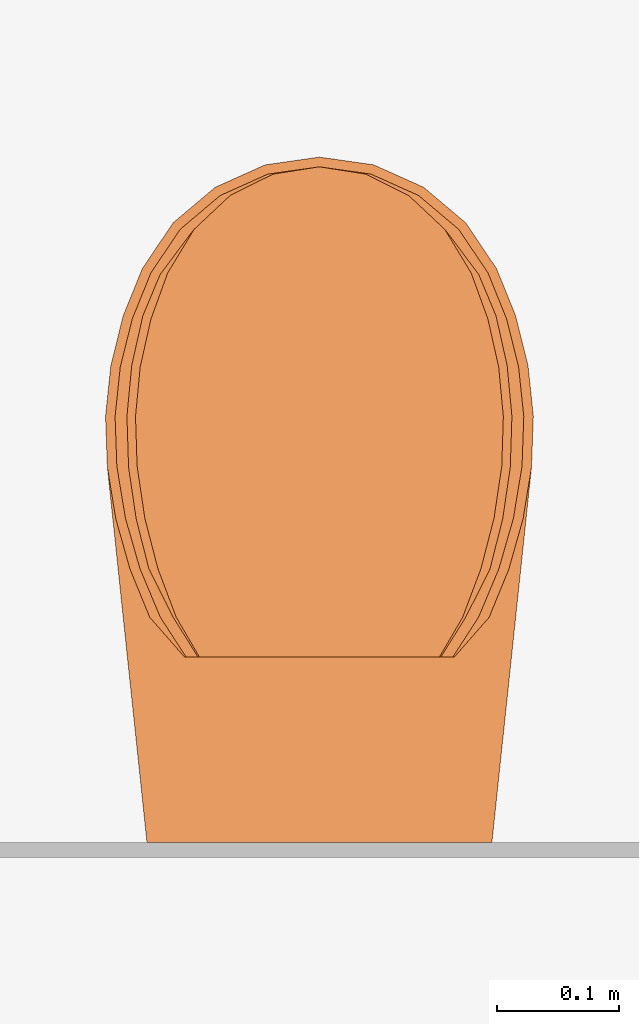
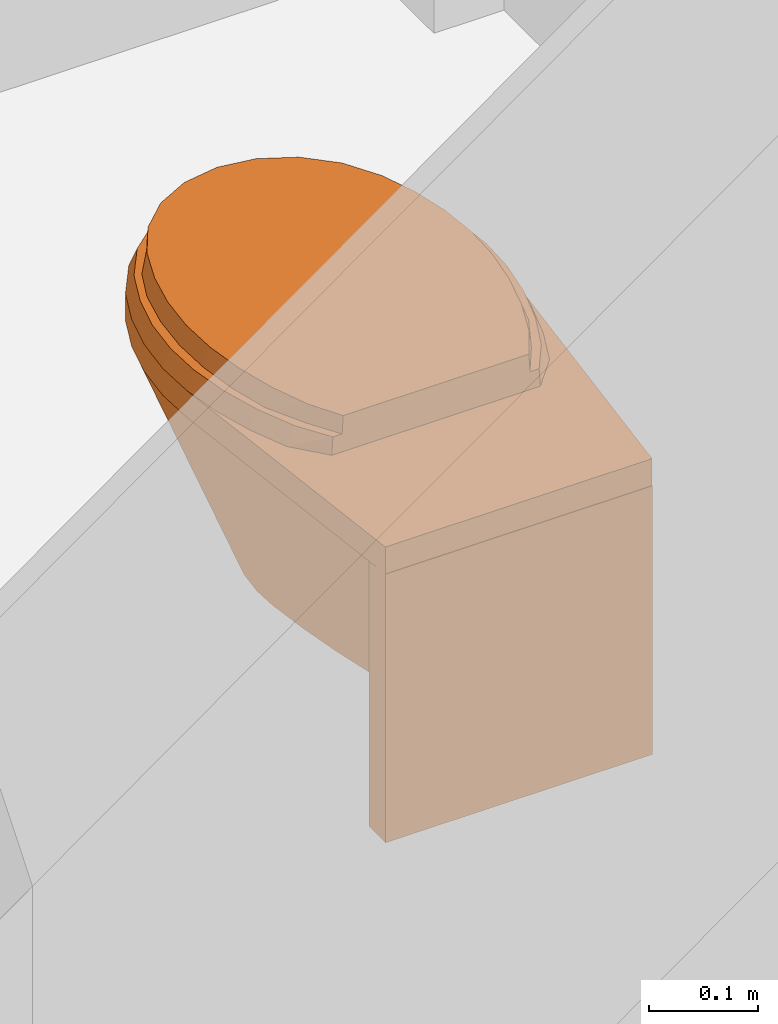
# One storey, part 109 of 117: 1 proxy.
"""IFC2X3 building model written with IfcOpenShell, lengths in millimetres."""

from ifc_helpers import new_model, entity, si_unit, converted_unit, derived_unit, money_unit, direction, frame, origin_with_axes, place, context, subcontext, project, spatial, open_shell, faceted_brep, surface_model, source, transform, mapped, type_object, type_shapes, element, save


model = new_model("IFC2X3")

# Units and contexts
model_context = context("Model", 3, precision=0.01, world=origin_with_axes(), true_north=direction((0.0, 1.0)))
body_context = subcontext(model_context, "Body", "Model", "MODEL_VIEW")
ifc_project = project(units=[si_unit("LENGTHUNIT", "METRE", prefix="MILLI"), si_unit("AREAUNIT", "SQUARE_METRE"), si_unit("VOLUMEUNIT", "CUBIC_METRE"), converted_unit("PLANEANGLEUNIT", "DEGREE", entity("IfcPlaneAngleMeasure", 0.0174532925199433), si_unit("PLANEANGLEUNIT", "RADIAN"), dimensions=[0, 0, 0, 0, 0, 0, 0]), money_unit("EUR"), converted_unit("TIMEUNIT", "Year", entity("IfcTimeMeasure", 31557600.0), si_unit("TIMEUNIT", "SECOND"), dimensions=[0, 0, 1, 0, 0, 0, 0]), si_unit("MASSUNIT", "GRAM", prefix="KILO"), si_unit("THERMODYNAMICTEMPERATUREUNIT", "DEGREE_CELSIUS"), si_unit("LUMINOUSINTENSITYUNIT", "LUMEN"), si_unit("ENERGYUNIT", "JOULE", prefix="MEGA"), derived_unit("THERMALCONDUCTANCEUNIT", [(si_unit("POWERUNIT", "WATT"), 1), (si_unit("LENGTHUNIT", "METRE"), -1), (si_unit("THERMODYNAMICTEMPERATUREUNIT", "KELVIN"), -1)]), derived_unit("SPECIFICHEATCAPACITYUNIT", [(si_unit("ENERGYUNIT", "JOULE"), 1), (si_unit("MASSUNIT", "GRAM", prefix="KILO"), -1), (si_unit("THERMODYNAMICTEMPERATUREUNIT", "KELVIN"), -1)]), derived_unit("MASSDENSITYUNIT", [(si_unit("MASSUNIT", "GRAM", prefix="KILO"), 1), (si_unit("VOLUMEUNIT", "CUBIC_METRE"), -1)])], contexts=[model_context])

# Site, building, storey
site_placement = place(None, origin_with_axes())
site = spatial("IfcSite", under=ifc_project, at=site_placement, Name="Site", CompositionType="ELEMENT")
building_placement = place(site_placement, origin_with_axes())
building = spatial("IfcBuilding", under=site, at=building_placement, Name="Naam gebouw", CompositionType="ELEMENT")
storey_placement = place(building_placement, frame((0.0, 0.0, 4150.0), z_axis=(0.0, 0.0, 1.0), x_axis=(1.0, 0.0, 0.0)))
storey = spatial("IfcBuildingStorey", under=building, at=storey_placement, Name="1e verdieping N", CompositionType="ELEMENT", Elevation=4150.0)

# Proxy
building_element_proxy_type = type_object("IfcBuildingElementProxyType", Name="Toilet 27", PredefinedType="NOTDEFINED")
shared_shape = source(origin_with_axes(), body_context, "Body", "SurfaceModel", [
    faceted_brep([(141.0283315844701, -29.31865370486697, 69.99999999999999), (-141.0283315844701, -29.31865370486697, 69.99999999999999), (-141.0283315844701, 0.4949050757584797, 69.99999999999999), (141.0283315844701, 0.4949050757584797, 69.99999999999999), (141.0283315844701, -29.31865370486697, 370.0), (-141.0283315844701, -29.31865370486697, 370.0), (-141.0283315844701, 0.4949050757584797, 370.0), (141.0283315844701, 0.4949050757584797, 370.0)], [[[0, 1, 2, 3]], [[1, 0, 4, 5]], [[2, 1, 5, 6]], [[3, 2, 6, 7]], [[0, 3, 7, 4]], [[5, 4, 7, 6]]]),
    faceted_brep([(0.0, -70.89167385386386, 370.0), (29.22322490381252, -74.34010881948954, 370.0), (48.96817068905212, -81.5929972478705, 370.0), (48.96817068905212, -29.31865370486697, 370.0), (-48.96817068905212, -29.31865370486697, 370.0), (-48.96817068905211, -81.5929972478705, 370.0), (-29.22322490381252, -74.34010881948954, 370.0), (13.70129415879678, -104.9506834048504, 120.0), (48.96817068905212, -91.42153264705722, 305.9289314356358), (25.9903462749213, -111.5027098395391, 120.0), (48.96817068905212, -132.9294031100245, 150.8349994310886), (48.96817068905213, -162.8654130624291, 120.0), (48.96817068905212, -29.31865370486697, 120.0), (48.96817068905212, -98.32654517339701, 277.0091093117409), (48.96817068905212, -115.6023982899, 192.7960154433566), (48.96817068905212, -128.1614437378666, 166.4745945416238), (-48.96817068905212, -29.31865370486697, 120.0), (-48.96817068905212, -88.2509938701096, 324.1614695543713), (-48.96817068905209, -162.865413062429, 120.0), (-48.96817068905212, -136.958898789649, 141.3134093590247), (-48.96817068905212, -132.9294031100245, 150.8349994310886), (-48.96817068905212, -121.830119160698, 170.4964192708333), (-48.96817068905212, -115.6023982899, 192.7960154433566), (-48.96817068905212, -107.0876370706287, 223.4625696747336), (-48.96817068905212, -91.42153264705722, 305.9289314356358), (-13.70129415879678, -104.9506834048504, 120.0), (0.0, -102.6888280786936, 120.0), (35.59888072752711, -121.6691333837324, 120.0), (41.53676110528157, -134.4015105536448, 120.0), (-41.53676110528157, -134.4015105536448, 120.0), (-25.9903462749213, -111.5027098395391, 120.0), (-35.59888072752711, -121.6691333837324, 120.0)], [[[0, 1, 2, 3, 4, 5, 6]], [[1, 0, 7]], [[8, 2, 1, 9]], [[10, 11, 12, 3, 2, 8, 13, 14, 15]], [[3, 12, 16, 4]], [[17, 5, 4, 16, 18, 19, 20, 21, 22, 23, 24]], [[6, 5, 17, 25]], [[0, 6, 26]], [[26, 7, 0]], [[7, 9, 1]], [[13, 8, 9, 27]], [[11, 10, 28]], [[29, 18, 16, 12, 11, 28, 27, 9, 7, 26, 25, 30, 31]], [[14, 13, 27]], [[15, 14, 27, 28]], [[10, 15, 28]], [[18, 29, 19]], [[20, 19, 29]], [[29, 31, 21, 20]], [[22, 21, 31]], [[31, 30, 23, 22]], [[24, 23, 30]], [[30, 25, 17, 24]], [[25, 26, 6]]]),
    surface_model("IfcShellBasedSurfaceModel", [(17.69122070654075, -459.020482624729, 120.0), (34.02798181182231, -451.6883347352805, 120.0), (85.18209164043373, -535.3680377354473, 370.0), (0.0, -461.5278029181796, 120.0), (-17.69122070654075, -459.020482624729, 120.0), (-34.02798181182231, -451.6883347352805, 120.0), (-47.75865687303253, -440.0938417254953, 120.0), (-57.83238894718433, -425.1254476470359, 120.0), (-68.23029031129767, -399.4182096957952, 120.0), (-74.94382651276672, -372.4786779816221, 120.0), (-77.83882476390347, -344.8464779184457, 120.0), (-76.85750262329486, -317.0761416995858, 120.0), (-70.97348723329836, -270.8651255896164, 120.0), (-63.11507520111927, -224.9582077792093, 120.0), (-53.29597761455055, -179.4418475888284, 120.0), (-41.53676110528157, -134.4015105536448, 120.0), (-35.59888072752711, -121.6691333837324, 120.0), (-25.9903462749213, -111.5027098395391, 120.0), (-13.70129415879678, -104.9506834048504, 120.0), (0.0, -102.6888280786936, 120.0), (13.70129415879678, -104.9506834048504, 120.0), (25.9903462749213, -111.5027098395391, 120.0), (35.59888072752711, -121.6691333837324, 120.0), (41.53676110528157, -134.4015105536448, 120.0), (53.29597761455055, -179.4418475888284, 120.0), (63.11507520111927, -224.9582077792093, 120.0), (70.97348723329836, -270.8651255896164, 120.0), (76.85750262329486, -317.0761416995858, 120.0), (77.83882476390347, -344.845484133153, 120.0), (74.94382651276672, -372.4786779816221, 120.0), (68.23029031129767, -399.4182096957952, 120.0), (57.83238894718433, -425.1254476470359, 120.0), (47.75865687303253, -440.0938417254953, 120.0), (119.554809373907, -506.3435444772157, 370.0), (44.28681357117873, -553.722258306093, 370.0), (0.0, -560.0, 370.0), (-44.28681357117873, -553.722258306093, 370.0), (-85.18209164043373, -535.3680377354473, 370.0), (-119.554809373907, -506.3435444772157, 370.0), (-144.7734172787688, -468.8718762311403, 370.0), (-160.3893669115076, -430.2603362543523, 370.0), (-170.4738719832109, -389.7973742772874, 370.0), (-174.8222455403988, -348.2949128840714, 370.0), (-173.3473242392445, -306.5847503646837, 370.0), (-164.8111927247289, -257.295981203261, 370.0), (-149.8396642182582, -209.614162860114, 370.0), (-128.7050017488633, -164.3989196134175, 370.0), (-101.7881776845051, -122.4661491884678, 370.0), (-81.51241692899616, -100.8344247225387, 370.0), (-56.88632388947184, -84.50156343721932, 370.0), (-29.22322490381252, -74.34010881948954, 370.0), (0.0, -70.89167385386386, 370.0), (29.22322490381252, -74.34010881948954, 370.0), (56.88632388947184, -84.50156343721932, 370.0), (81.51241692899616, -100.8344247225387, 370.0), (101.7881776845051, -122.4661491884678, 370.0), (128.7050017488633, -164.3989196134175, 370.0), (149.8396642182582, -209.614162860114, 370.0), (164.8111927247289, -257.2969749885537, 370.0), (173.3473242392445, -306.5847503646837, 370.0), (174.8222455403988, -348.2949128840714, 370.0), (170.4738719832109, -389.7973742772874, 370.0), (160.3903462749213, -430.2603362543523, 370.0), (144.7734172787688, -468.8718762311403, 370.0)], [open_shell([[[0, 1, 2]], [[0, 3, 4, 5, 6, 7, 8, 9, 10, 11, 12, 13, 14, 15, 16, 17, 18, 19, 20, 21, 22, 23, 24, 25, 26, 27, 28, 29, 30, 31, 32, 1]], [[1, 33, 2]], [[0, 2, 34]], [[3, 0, 34]], [[4, 3, 35]], [[5, 4, 36]], [[6, 5, 37]], [[7, 6, 38]], [[8, 7, 39]], [[9, 8, 40]], [[10, 9, 41]], [[11, 10, 42]], [[12, 11, 43]], [[13, 12, 44]], [[14, 13, 45]], [[15, 14, 46]], [[16, 15, 47]], [[17, 16, 48]], [[18, 17, 49]], [[19, 18, 50]], [[20, 19, 51]], [[21, 20, 52]], [[22, 21, 53]], [[23, 22, 54]], [[24, 23, 55]], [[25, 24, 56]], [[26, 25, 57]], [[27, 26, 58]], [[28, 27, 59]], [[29, 28, 60]], [[30, 29, 61]], [[31, 30, 62]], [[32, 31, 63]], [[1, 32, 33]], [[3, 34, 35]], [[4, 35, 36]], [[5, 36, 37]], [[6, 37, 38]], [[7, 38, 39]], [[8, 39, 40]], [[9, 40, 41]], [[10, 41, 42]], [[11, 42, 43]], [[12, 43, 44]], [[13, 44, 45]], [[14, 45, 46]], [[15, 46, 47]], [[16, 47, 48]], [[17, 48, 49]], [[18, 49, 50]], [[19, 50, 51]], [[20, 51, 52]], [[21, 52, 53]], [[22, 53, 54]], [[23, 54, 55]], [[24, 55, 56]], [[25, 56, 57]], [[26, 57, 58]], [[27, 58, 59]], [[28, 59, 60]], [[29, 60, 61]], [[30, 61, 62]], [[31, 62, 63]], [[32, 63, 33]]])]),
    faceted_brep([(-173.3473242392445, -306.5847503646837, 370.0), (-174.8222455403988, -348.2949128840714, 370.0), (-174.8222455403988, -348.2949128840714, 400.0), (-173.3473242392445, -306.5847503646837, 400.0), (-140.9734872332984, 0.0, 370.0), (140.975445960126, 0.0, 370.0), (173.3473242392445, -306.5847503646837, 370.0), (174.8222455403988, -348.2949128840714, 370.0), (170.4738719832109, -389.7973742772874, 370.0), (160.3903462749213, -430.2603362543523, 370.0), (144.7734172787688, -468.8718762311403, 370.0), (119.554809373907, -506.3435444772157, 370.0), (85.18209164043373, -535.3680377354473, 370.0), (44.28681357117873, -553.722258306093, 370.0), (0.0, -560.0, 370.0), (-44.28681357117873, -553.722258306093, 370.0), (-85.18209164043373, -535.3680377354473, 370.0), (-119.554809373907, -506.3435444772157, 370.0), (-144.7734172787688, -468.8718762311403, 370.0), (-160.3893669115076, -430.2603362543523, 370.0), (-170.4738719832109, -389.7973742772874, 370.0), (144.5021336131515, -309.7211367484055, 370.0), (129.3885974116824, -258.2838037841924, 370.0), (97.13522210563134, -215.7418429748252, 370.0), (52.01301154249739, -187.731010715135, 370.0), (0.0, -177.9630950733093, 370.0), (-52.01301154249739, -187.731010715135, 370.0), (-97.13522210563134, -215.7418429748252, 370.0), (-129.3885974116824, -258.2838037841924, 370.0), (-144.5021336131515, -309.7211367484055, 370.0), (-145.8291710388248, -347.2633637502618, 370.0), (-141.914655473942, -384.6197529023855, 370.0), (-132.838894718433, -421.0399963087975, 370.0), (-118.7820916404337, -455.7936617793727, 370.0), (-98.09206016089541, -486.5383973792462, 370.0), (-69.89031129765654, -510.3524743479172, 370.0), (-36.33634137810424, -525.411302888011, 370.0), (0.0, -530.5620920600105, 370.0), (36.33634137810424, -525.411302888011, 370.0), (69.89031129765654, -510.3524743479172, 370.0), (98.09206016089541, -486.5383973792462, 370.0), (118.7820916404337, -455.7936617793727, 370.0), (132.838894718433, -421.0399963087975, 370.0), (141.914655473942, -384.6197529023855, 370.0), (145.8291710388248, -347.2633637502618, 370.0), (-170.4738719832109, -389.7973742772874, 400.0), (-160.3893669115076, -430.2603362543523, 400.0), (-144.7734172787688, -468.8718762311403, 400.0), (-119.554809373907, -506.3435444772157, 400.0), (-85.18209164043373, -535.3680377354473, 400.0), (-44.28681357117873, -553.722258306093, 400.0), (0.0, -560.0, 400.0), (44.28681357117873, -553.722258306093, 400.0), (85.18209164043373, -535.3680377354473, 400.0), (119.554809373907, -506.3435444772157, 400.0), (144.7734172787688, -468.8718762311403, 400.0), (160.3903462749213, -430.2603362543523, 400.0), (170.4738719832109, -389.7973742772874, 400.0), (174.8222455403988, -348.2949128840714, 400.0), (173.3473242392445, -306.5847503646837, 400.0), (140.975445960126, 0.0, 400.0), (-140.9734872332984, 0.0, 400.0), (144.5021336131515, -309.7211367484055, 400.0), (145.8291710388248, -347.2633637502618, 400.0), (141.914655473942, -384.6197529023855, 400.0), (132.838894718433, -421.0399963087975, 400.0), (118.7820916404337, -455.7936617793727, 400.0), (98.09206016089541, -486.5383973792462, 400.0), (69.89031129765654, -510.3524743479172, 400.0), (36.33634137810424, -525.411302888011, 400.0), (0.0, -530.5620920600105, 400.0), (-36.33634137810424, -525.411302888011, 400.0), (-69.89031129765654, -510.3524743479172, 400.0), (-98.09206016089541, -486.5383973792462, 400.0), (-118.7820916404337, -455.7936617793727, 400.0), (-132.838894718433, -421.0399963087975, 400.0), (-141.914655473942, -384.6197529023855, 400.0), (-145.8291710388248, -347.2633637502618, 400.0), (-144.5021336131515, -309.7211367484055, 400.0), (-129.3885974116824, -258.2838037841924, 400.0), (-97.13522210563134, -215.7418429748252, 400.0), (-52.01301154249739, -187.731010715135, 400.0), (0.0, -177.9630950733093, 400.0), (52.01301154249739, -187.731010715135, 400.0), (97.13522210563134, -215.7418429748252, 400.0), (129.3885974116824, -258.2838037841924, 400.0)], [[[0, 1, 2, 3]], [[0, 4, 5, 6, 7, 8, 9, 10, 11, 12, 13, 14, 15, 16, 17, 18, 19, 20, 1], [21, 22, 23, 24, 25, 26, 27, 28, 29, 30, 31, 32, 33, 34, 35, 36, 37, 38, 39, 40, 41, 42, 43, 44]], [[1, 20, 45, 2]], [[3, 2, 45, 46, 47, 48, 49, 50, 51, 52, 53, 54, 55, 56, 57, 58, 59, 60, 61], [62, 63, 64, 65, 66, 67, 68, 69, 70, 71, 72, 73, 74, 75, 76, 77, 78, 79, 80, 81, 82, 83, 84, 85]], [[4, 0, 3, 61]], [[5, 4, 61, 60]], [[6, 5, 60, 59]], [[7, 6, 59, 58]], [[8, 7, 58, 57]], [[9, 8, 57, 56]], [[10, 9, 56, 55]], [[11, 10, 55, 54]], [[12, 11, 54, 53]], [[13, 12, 53, 52]], [[14, 13, 52, 51]], [[15, 14, 51, 50]], [[16, 15, 50, 49]], [[17, 16, 49, 48]], [[18, 17, 48, 47]], [[19, 18, 47, 46]], [[20, 19, 46, 45]], [[22, 21, 62, 85]], [[23, 22, 85, 84]], [[24, 23, 84, 83]], [[25, 24, 83, 82]], [[26, 25, 82, 81]], [[27, 26, 81, 80]], [[28, 27, 80, 79]], [[29, 28, 79, 78]], [[30, 29, 78, 77]], [[31, 30, 77, 76]], [[32, 31, 76, 75]], [[33, 32, 75, 74]], [[34, 33, 74, 73]], [[35, 34, 73, 72]], [[36, 35, 72, 71]], [[37, 36, 71, 70]], [[38, 37, 70, 69]], [[39, 38, 69, 68]], [[40, 39, 68, 67]], [[41, 40, 67, 66]], [[42, 41, 66, 65]], [[43, 42, 65, 64]], [[44, 43, 64, 63]], [[21, 44, 63, 62]]]),
    surface_model("IfcShellBasedSurfaceModel", [(16.80665967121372, -465.7329258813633, 220.0), (32.3265827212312, -460.0138505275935, 220.0), (80.92298705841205, -525.2840188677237, 370.0), (0.0, -467.6886357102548, 220.0), (-16.80665967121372, -465.7329258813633, 220.0), (-32.3265827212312, -460.0138505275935, 220.0), (-45.3707240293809, -450.970145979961, 220.0), (-54.94076949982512, -439.2947985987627, 220.0), (-64.81877579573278, -419.2431529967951, 220.0), (-71.1966351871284, -398.23031825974, 220.0), (-73.9468835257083, -376.6772022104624, 220.0), (-73.01462749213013, -355.0163399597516, 220.0), (-67.42481287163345, -318.9717473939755, 220.0), (-59.95932144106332, -283.164351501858, 220.0), (-50.63117873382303, -247.6615905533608, 220.0), (-39.4599230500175, -212.5301276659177, 220.0), (-33.81893669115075, -202.598873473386, 220.0), (-24.69082896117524, -194.6690631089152, 220.0), (-13.01622945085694, -189.558482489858, 220.0), (0.0, -187.7942353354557, 220.0), (13.01622945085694, -189.558482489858, 220.0), (24.69082896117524, -194.6690631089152, 220.0), (33.81893669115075, -202.598873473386, 220.0), (39.4599230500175, -212.5301276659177, 220.0), (50.63117873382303, -247.6615905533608, 220.0), (59.95932144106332, -283.164351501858, 220.0), (67.42481287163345, -318.9717473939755, 220.0), (73.01462749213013, -355.0163399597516, 220.0), (73.9468835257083, -376.6764270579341, 220.0), (71.1966351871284, -398.23031825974, 220.0), (64.81877579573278, -419.2431529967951, 220.0), (54.94076949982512, -439.2947985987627, 220.0), (45.3707240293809, -450.970145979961, 220.0), (113.5770689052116, -502.644914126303, 370.0), (42.0724728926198, -539.6003109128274, 370.0), (0.0, -544.4969494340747, 370.0), (-42.0724728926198, -539.6003109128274, 370.0), (-80.92298705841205, -525.2840188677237, 370.0), (-113.5770689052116, -502.644914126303, 370.0), (-137.5347464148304, -473.4170128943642, 370.0), (-152.3698985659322, -443.3000117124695, 370.0), (-161.9501783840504, -411.7389013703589, 370.0), (-166.0811332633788, -379.3669814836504, 370.0), (-164.6799580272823, -346.833054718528, 370.0), (-156.5706330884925, -308.3878147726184, 370.0), (-142.3476810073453, -271.1959964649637, 370.0), (-122.2697516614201, -235.9281067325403, 370.0), (-96.69876880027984, -203.2205458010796, 370.0), (-77.43679608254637, -186.3478007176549, 370.0), (-54.04200769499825, -173.6081689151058, 370.0), (-27.7620636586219, -165.6822343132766, 370.0), (0.0, -162.9924550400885, 370.0), (27.7620636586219, -165.6822343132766, 370.0), (54.04200769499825, -173.6081689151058, 370.0), (77.43679608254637, -186.3478007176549, 370.0), (96.69876880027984, -203.2205458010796, 370.0), (122.2697516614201, -235.9281067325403, 370.0), (142.3476810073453, -271.1959964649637, 370.0), (156.5706330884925, -308.3885899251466, 370.0), (164.6799580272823, -346.833054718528, 370.0), (166.0811332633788, -379.3669814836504, 370.0), (161.9501783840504, -411.7389013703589, 370.0), (152.3708289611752, -443.3000117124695, 370.0), (137.5347464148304, -473.4170128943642, 370.0)], [open_shell([[[0, 1, 2]], [[0, 3, 4, 5, 6, 7, 8, 9, 10, 11, 12, 13, 14, 15, 16, 17, 18, 19, 20, 21, 22, 23, 24, 25, 26, 27, 28, 29, 30, 31, 32, 1]], [[1, 33, 2]], [[0, 2, 34]], [[3, 0, 34]], [[4, 3, 35]], [[5, 4, 36]], [[6, 5, 37]], [[7, 6, 38]], [[8, 7, 39]], [[9, 8, 40]], [[10, 9, 41]], [[11, 10, 42]], [[12, 11, 43]], [[13, 12, 44]], [[14, 13, 45]], [[15, 14, 46]], [[16, 15, 47]], [[17, 16, 48]], [[18, 17, 49]], [[19, 18, 50]], [[20, 19, 51]], [[21, 20, 52]], [[22, 21, 53]], [[23, 22, 54]], [[24, 23, 55]], [[25, 24, 56]], [[26, 25, 57]], [[27, 26, 58]], [[28, 27, 59]], [[29, 28, 60]], [[30, 29, 61]], [[31, 30, 62]], [[32, 31, 63]], [[1, 32, 33]], [[3, 34, 35]], [[4, 35, 36]], [[5, 36, 37]], [[6, 37, 38]], [[7, 38, 39]], [[8, 39, 40]], [[9, 40, 41]], [[10, 41, 42]], [[11, 42, 43]], [[12, 43, 44]], [[13, 44, 45]], [[14, 45, 46]], [[15, 46, 47]], [[16, 47, 48]], [[17, 48, 49]], [[18, 49, 50]], [[19, 50, 51]], [[20, 51, 52]], [[21, 52, 53]], [[22, 53, 54]], [[23, 54, 55]], [[24, 55, 56]], [[25, 56, 57]], [[26, 57, 58]], [[27, 58, 59]], [[28, 59, 60]], [[29, 60, 61]], [[30, 61, 62]], [[31, 62, 63]], [[32, 63, 33]]])]),
    faceted_brep([(0.0, -560.0, 400.0), (-44.28681357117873, -553.722258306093, 400.0), (-85.18209164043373, -535.3680377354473, 400.0), (-119.554809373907, -506.3435444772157, 400.0), (-144.7734172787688, -468.8718762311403, 400.0), (-160.3893669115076, -430.2603362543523, 400.0), (-170.4738719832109, -389.7973742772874, 400.0), (-174.8222455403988, -348.2949128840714, 400.0), (-173.3473242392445, -306.5847503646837, 400.0), (-166.4663168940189, -264.4263906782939, 400.0), (-154.8716334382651, -223.3443004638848, 400.0), (-138.7150752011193, -183.8810864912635, 400.0), (-110.1926579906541, -151.3163525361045, 400.0), (110.1926579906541, -151.3163525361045, 400.0), (138.7150752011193, -183.8810864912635, 400.0), (154.8716334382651, -223.3443004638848, 400.0), (166.4663168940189, -264.4263906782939, 400.0), (173.3473242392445, -306.5847503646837, 400.0), (174.8222455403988, -348.2949128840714, 400.0), (170.4738719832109, -389.7973742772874, 400.0), (160.3903462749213, -430.2603362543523, 400.0), (144.7734172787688, -468.8718762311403, 400.0), (119.554809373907, -506.3435444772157, 400.0), (85.18209164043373, -535.3680377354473, 400.0), (44.28681357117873, -553.722258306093, 400.0), (87.07689659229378, -411.9963613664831, 400.0), (94.51085540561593, -382.2763031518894, 400.0), (97.71606496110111, -351.7983255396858, 400.0), (96.61425296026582, -320.7429308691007, 400.0), (90.99294096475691, -286.7942733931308, 400.0), (81.32886310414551, -253.3381075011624, 400.0), (68.75448552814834, -223.4663237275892, 400.0), (-68.75412876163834, -223.4663237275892, 400.0), (-81.3289539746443, -253.3384220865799, 400.0), (-90.99294096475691, -286.7942733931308, 400.0), (-96.61425296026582, -320.7429308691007, 400.0), (-97.71606496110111, -351.7983255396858, 400.0), (-94.51085540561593, -382.2763031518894, 400.0), (-87.07689659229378, -411.9963613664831, 400.0), (-76.4888004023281, -438.0775703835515, 400.0), (-62.06856874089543, -459.4262123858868, 400.0), (-44.26109835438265, -474.4067566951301, 400.0), (-23.02579943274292, -483.9023013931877, 400.0), (0.0, -487.1544663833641, 400.0), (23.02579943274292, -483.9023013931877, 400.0), (44.26109835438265, -474.4067566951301, 400.0), (62.06856874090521, -459.4262123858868, 400.0), (76.4888004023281, -438.0775703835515, 400.0), (0.0, -552.0944379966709, 420.0000000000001), (-42.15180132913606, -546.1188070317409, 420.0000000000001), (-81.07562084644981, -528.649055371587, 420.0000000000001), (-113.7912556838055, -501.0248055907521, 420.0000000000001), (-137.7925148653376, -465.3598390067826, 420.0000000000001), (-152.9902763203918, -427.7848170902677, 420.0000000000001), (-162.8034977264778, -388.4070686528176, 420.0000000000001), (-167.0353270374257, -348.0176467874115, 420.0000000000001), (-165.6005596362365, -307.4274802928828, 420.0000000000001), (-158.5902763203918, -264.9332211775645, 420.0000000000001), (-146.6880727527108, -223.5758524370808, 420.0000000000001), (-130.06142007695, -183.9317695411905, 420.0000000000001), (-108.940468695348, -151.3163525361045, 420.0000000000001), (108.940468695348, -151.3163525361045, 420.0000000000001), (130.06142007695, -183.9307757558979, 420.0000000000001), (146.6880727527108, -223.5758524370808, 420.0000000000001), (158.5902763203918, -264.9332211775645, 420.0000000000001), (165.6005596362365, -307.4274802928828, 420.0000000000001), (167.0353270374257, -348.0176467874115, 420.0000000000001), (162.8034977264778, -388.4070686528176, 420.0000000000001), (152.9902763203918, -427.7848170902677, 420.0000000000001), (137.7925148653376, -465.3598390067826, 420.0000000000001), (113.7912556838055, -501.0248055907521, 420.0000000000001), (81.07562084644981, -528.649055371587, 420.0000000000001), (42.15180132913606, -546.1188070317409, 420.0000000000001), (87.07689659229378, -411.9963613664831, 420.0), (94.51085540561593, -382.2763031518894, 420.0), (97.71606496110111, -351.7983255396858, 420.0), (96.61425296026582, -320.7429308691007, 420.0), (90.99294096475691, -286.7942733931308, 420.0), (81.32886310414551, -253.3381075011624, 420.0), (68.75448552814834, -223.4663237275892, 420.0), (-68.75412876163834, -223.4663237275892, 420.0000000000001), (-81.3289539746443, -253.3384220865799, 420.0000000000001), (-90.99294096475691, -286.7942733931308, 420.0000000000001), (-96.61425296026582, -320.7429308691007, 420.0000000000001), (-97.71606496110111, -351.7983255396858, 420.0000000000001), (-94.51085540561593, -382.2763031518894, 420.0000000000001), (-87.07689659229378, -411.9963613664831, 420.0000000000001), (-76.4888004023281, -438.0775703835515, 420.0000000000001), (-62.06856874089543, -459.4262123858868, 420.0000000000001), (-44.26109835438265, -474.4067566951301, 420.0000000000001), (-23.02579943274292, -483.9023013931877, 420.0000000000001), (0.0, -487.1544663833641, 420.0), (23.02579943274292, -483.9023013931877, 420.0), (44.26109835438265, -474.4067566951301, 420.0), (62.06856874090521, -459.4262123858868, 420.0), (76.4888004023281, -438.0775703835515, 420.0)], [[[0, 1, 2, 3, 4, 5, 6, 7, 8, 9, 10, 11, 12, 13, 14, 15, 16, 17, 18, 19, 20, 21, 22, 23, 24], [25, 26, 27, 28, 29, 30, 31, 32, 33, 34, 35, 36, 37, 38, 39, 40, 41, 42, 43, 44, 45, 46, 47]], [[1, 0, 48]], [[2, 1, 49]], [[3, 2, 50]], [[4, 3, 51]], [[5, 4, 52]], [[6, 5, 53]], [[6, 54, 55, 7]], [[8, 7, 55]], [[9, 8, 56]], [[10, 9, 57]], [[11, 10, 58]], [[12, 11, 59]], [[12, 60, 61, 13]], [[14, 13, 61]], [[15, 14, 62]], [[16, 15, 63]], [[17, 16, 64]], [[18, 17, 65]], [[18, 66, 67, 19]], [[20, 19, 67]], [[20, 68, 69, 21]], [[22, 21, 69]], [[23, 22, 70]], [[24, 23, 71]], [[0, 24, 72]], [[73, 74, 26, 25]], [[74, 75, 27, 26]], [[75, 76, 28, 27]], [[76, 77, 29, 28]], [[77, 78, 30, 29]], [[78, 79, 31, 30]], [[79, 80, 32, 31]], [[80, 81, 33, 32]], [[81, 82, 34, 33]], [[82, 83, 35, 34]], [[83, 84, 36, 35]], [[84, 85, 37, 36]], [[85, 86, 38, 37]], [[86, 87, 39, 38]], [[87, 88, 40, 39]], [[88, 89, 41, 40]], [[89, 90, 42, 41]], [[90, 91, 43, 42]], [[91, 92, 44, 43]], [[92, 93, 45, 44]], [[93, 94, 46, 45]], [[94, 95, 47, 46]], [[95, 73, 25, 47]], [[0, 72, 48]], [[1, 48, 49]], [[2, 49, 50]], [[3, 50, 51]], [[4, 51, 52]], [[5, 52, 53]], [[6, 53, 54]], [[54, 53, 52, 51, 50, 49, 48, 72, 71, 70, 69, 68, 67, 66, 65, 64, 63, 62, 61, 60, 59, 58, 57, 56, 55], [77, 76, 75, 74, 73, 95, 94, 93, 92, 91, 90, 89, 88, 87, 86, 85, 84, 83, 82, 81, 80, 79, 78]], [[8, 55, 56]], [[9, 56, 57]], [[10, 57, 58]], [[11, 58, 59]], [[12, 59, 60]], [[14, 61, 62]], [[15, 62, 63]], [[16, 63, 64]], [[17, 64, 65]], [[18, 65, 66]], [[20, 67, 68]], [[22, 69, 70]], [[23, 70, 71]], [[24, 71, 72]]]),
    faceted_brep([(-107.5993284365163, -494.4181209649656, 420.0000000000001), (-76.66388247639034, -519.4674730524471, 420.0000000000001), (-72.96805876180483, -528.649055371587, 440.0000000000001), (-130.2960755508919, -463.9029497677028, 420.0000000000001), (-144.3504302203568, -430.2603362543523, 420.0000000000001), (-153.4264847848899, -389.7973742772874, 420.0000000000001), (-157.3400209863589, -348.2949128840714, 420.0000000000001), (-156.01259181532, -306.5847503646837, 420.0000000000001), (-149.819685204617, -264.4263906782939, 420.0000000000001), (-139.3844700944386, -223.3443004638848, 420.0000000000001), (-119.5550052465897, -183.8810864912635, 420.0000000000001), (-99.17339219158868, -151.3163525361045, 420.0000000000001), (99.17339219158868, -151.3163525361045, 420.0000000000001), (119.5550052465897, -183.8810864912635, 420.0000000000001), (139.3844700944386, -223.3443004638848, 420.0000000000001), (149.819685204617, -264.4263906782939, 420.0000000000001), (156.01259181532, -306.5847503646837, 420.0000000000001), (157.3400209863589, -348.2949128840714, 420.0000000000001), (153.4264847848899, -389.7973742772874, 420.0000000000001), (144.3513116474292, -430.2603362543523, 420.0000000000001), (130.2960755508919, -463.9029497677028, 420.0000000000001), (107.5993284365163, -494.4181209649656, 420.0000000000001), (76.66388247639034, -519.4674730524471, 420.0000000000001), (39.85813221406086, -538.8154789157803, 420.0000000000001), (0.0, -545.0932206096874, 420.0000000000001), (-39.85813221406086, -538.8154789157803, 420.0000000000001), (-37.93662119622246, -546.1188070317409, 440.0000000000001), (-102.412130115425, -501.0248055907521, 440.0000000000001), (-124.0132633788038, -465.3598390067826, 440.0000000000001), (-137.6912486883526, -427.7848170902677, 440.0000000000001), (-146.52314795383, -388.4070686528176, 440.0000000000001), (-150.3317943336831, -348.0176467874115, 440.0000000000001), (-149.0405036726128, -307.4274802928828, 440.0000000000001), (-142.7312486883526, -264.9332211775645, 440.0000000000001), (-132.0192654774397, -223.5758524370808, 440.0000000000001), (-117.055278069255, -183.9317695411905, 440.0000000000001), (-98.04642182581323, -151.3163525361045, 440.0000000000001), (98.04642182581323, -151.3163525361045, 440.0000000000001), (117.055278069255, -183.9307757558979, 440.0000000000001), (132.0192654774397, -223.5758524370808, 440.0000000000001), (142.7312486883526, -264.9332211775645, 440.0000000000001), (149.0405036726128, -307.4274802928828, 440.0000000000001), (150.3317943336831, -348.0176467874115, 440.0000000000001), (146.52314795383, -388.4070686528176, 440.0000000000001), (137.6912486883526, -427.7848170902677, 440.0000000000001), (124.0132633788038, -465.3598390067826, 440.0000000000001), (102.412130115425, -501.0248055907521, 440.0000000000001), (72.96805876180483, -528.649055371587, 440.0000000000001), (37.93662119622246, -546.1188070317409, 440.0000000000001), (0.0, -552.0944379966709, 440.0000000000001)], [[[0, 1, 2]], [[0, 3, 4, 5, 6, 7, 8, 9, 10, 11, 12, 13, 14, 15, 16, 17, 18, 19, 20, 21, 22, 23, 24, 25, 1]], [[1, 26, 2]], [[0, 2, 27]], [[3, 0, 27]], [[4, 3, 28]], [[5, 4, 29]], [[6, 5, 30, 31]], [[7, 6, 31]], [[8, 7, 32]], [[9, 8, 33]], [[10, 9, 34]], [[11, 10, 35]], [[12, 11, 36, 37]], [[13, 12, 37]], [[14, 13, 38]], [[15, 14, 39]], [[16, 15, 40]], [[17, 16, 41]], [[18, 17, 42, 43]], [[19, 18, 43]], [[20, 19, 44]], [[21, 20, 45]], [[22, 21, 46]], [[23, 22, 47]], [[24, 23, 48]], [[25, 24, 49]], [[1, 25, 26]], [[27, 2, 26, 49, 48, 47, 46, 45, 44, 43, 42, 41, 40, 39, 38, 37, 36, 35, 34, 33, 32, 31, 30, 29, 28]], [[3, 27, 28]], [[4, 28, 29]], [[5, 29, 30]], [[7, 31, 32]], [[8, 32, 33]], [[9, 33, 34]], [[10, 34, 35]], [[11, 35, 36]], [[13, 37, 38]], [[14, 38, 39]], [[15, 39, 40]], [[16, 40, 41]], [[17, 41, 42]], [[19, 43, 44]], [[20, 44, 45]], [[21, 45, 46]], [[22, 46, 47]], [[23, 47, 48]], [[24, 48, 49]], [[25, 49, 26]]]),
])
type_shapes(building_element_proxy_type, [shared_shape])
proxy_placement = place(storey_placement, frame((700.1582291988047, 3595.668684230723, 0.0), z_axis=(0.0, 0.0, 1.0), x_axis=(-1.0, 0.0, 0.0)))
element("IfcBuildingElementProxy", 1, at=proxy_placement, inside=storey, type_object=building_element_proxy_type, Name="_Sanitair-x", context=body_context, shape_type="MappedRepresentation", body=[
    mapped(shared_shape, transform((0.0, 0.0, 0.0))),
])

save(model, "model.ifc")
